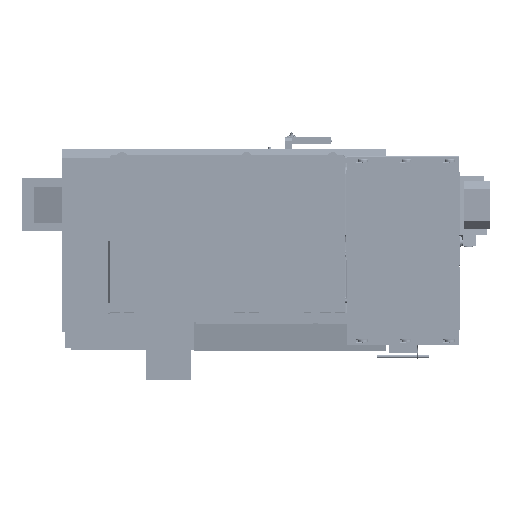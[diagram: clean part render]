
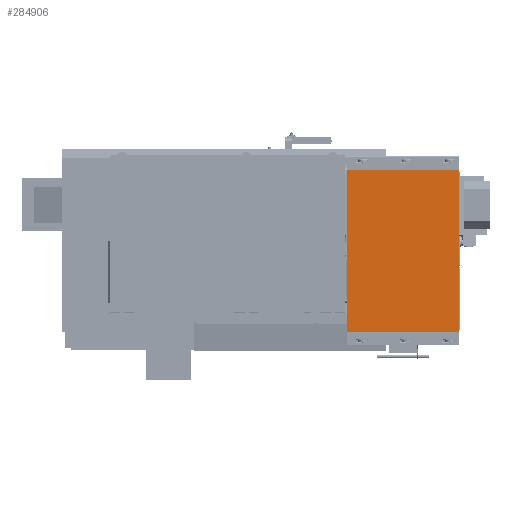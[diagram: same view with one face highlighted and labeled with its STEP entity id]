
A CAD part, front view. The second image highlights one B-rep face of the part: STEP entity #284906.
In plain terms, the highlighted planar face has unit normal (0, -1, 0) as drawn and (0.035, -0.999, 0) by its records, which use the part's own axes.
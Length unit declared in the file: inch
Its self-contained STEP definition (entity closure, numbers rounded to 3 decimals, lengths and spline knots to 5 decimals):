
#1536 = ORIENTED_EDGE ( 'NONE', *, *, #137292, .F. ) ;
#3104 = CARTESIAN_POINT ( 'NONE',  ( 118.72268, -41.16452, -54.03171 ) ) ;
#5153 = DIRECTION ( 'NONE',  ( 0.999, 0.035, 0. ) ) ;
#13883 = DIRECTION ( 'NONE',  ( 0., 0., -1. ) ) ;
#21405 = CARTESIAN_POINT ( 'NONE',  ( 118.82262, -41.16103, -54.03171 ) ) ;
#32302 = DIRECTION ( 'NONE',  ( 0.999, 0.035, 0. ) ) ;
#43758 = DIRECTION ( 'NONE',  ( 0., 0., 1. ) ) ;
#45467 = CARTESIAN_POINT ( 'NONE',  ( 72.14108, -42.79118, -54.03171 ) ) ;
#47731 = EDGE_CURVE ( 'NONE', #253581, #204048, #230423, .T. ) ;
#62962 = CARTESIAN_POINT ( 'NONE',  ( 72.14108, -42.79118, 13.06829 ) ) ;
#69053 = LINE ( 'NONE', #280220, #82822 ) ;
#82822 = VECTOR ( 'NONE', #5153, 39.37008 ) ;
#90486 = CARTESIAN_POINT ( 'NONE',  ( -6.27156, -45.52941, -54.03171 ) ) ;
#91321 = CARTESIAN_POINT ( 'NONE',  ( 72.24102, -42.78769, -54.03171 ) ) ;
#92806 = EDGE_CURVE ( 'NONE', #253581, #246650, #230002, .T. ) ;
#97983 = ORIENTED_EDGE ( 'NONE', *, *, #246416, .F. ) ;
#100361 = ORIENTED_EDGE ( 'NONE', *, *, #92806, .T. ) ;
#114034 = DIRECTION ( 'NONE',  ( -0.999, -0.035, 0. ) ) ;
#115228 = CARTESIAN_POINT ( 'NONE',  ( 118.72268, -41.16452, 13.06829 ) ) ;
#118260 = ORIENTED_EDGE ( 'NONE', *, *, #47731, .F. ) ;
#123839 = FACE_OUTER_BOUND ( 'NONE', #131230, .T. ) ;
#127859 = VERTEX_POINT ( 'NONE', #115228 ) ;
#128311 = CARTESIAN_POINT ( 'NONE',  ( 118.82262, -41.16103, -54.03171 ) ) ;
#129136 = CARTESIAN_POINT ( 'NONE',  ( -6.27156, -45.52941, -54.03171 ) ) ;
#131230 = EDGE_LOOP ( 'NONE', ( #118260, #100361, #249583, #247599, #97983, #1536, #342255, #185234 ) ) ;
#137292 = EDGE_CURVE ( 'NONE', #127859, #152506, #211201, .T. ) ;
#141933 = CARTESIAN_POINT ( 'NONE',  ( 118.72268, -41.16452, -54.03171 ) ) ;
#146507 = CARTESIAN_POINT ( 'NONE',  ( -6.27156, -45.52941, -54.03171 ) ) ;
#147876 = VECTOR ( 'NONE', #114034, 39.37008 ) ;
#152506 = VERTEX_POINT ( 'NONE', #302094 ) ;
#164914 = LINE ( 'NONE', #271351, #331957 ) ;
#176145 = PLANE ( 'NONE',  #186055 ) ;
#180644 = DIRECTION ( 'NONE',  ( 0., 0., -1. ) ) ;
#180741 = VECTOR ( 'NONE', #338453, 39.37008 ) ;
#181077 = VERTEX_POINT ( 'NONE', #3104 ) ;
#181434 = EDGE_CURVE ( 'NONE', #234299, #127859, #164914, .T. ) ;
#185234 = ORIENTED_EDGE ( 'NONE', *, *, #292419, .F. ) ;
#186055 = AXIS2_PLACEMENT_3D ( 'NONE', #146507, #226705, #13883 ) ;
#196905 = DIRECTION ( 'NONE',  ( 0.999, 0.035, 0. ) ) ;
#200442 = VECTOR ( 'NONE', #180644, 39.37008 ) ;
#201225 = VECTOR ( 'NONE', #43758, 39.37008 ) ;
#204048 = VERTEX_POINT ( 'NONE', #62962 ) ;
#209327 = LINE ( 'NONE', #129136, #180741 ) ;
#211201 = LINE ( 'NONE', #293155, #232945 ) ;
#213630 = LINE ( 'NONE', #128311, #200442 ) ;
#225793 = EDGE_CURVE ( 'NONE', #181077, #246650, #246625, .T. ) ;
#226705 = DIRECTION ( 'NONE',  ( 0.035, -0.999, 0. ) ) ;
#230002 = LINE ( 'NONE', #90486, #335651 ) ;
#230423 = LINE ( 'NONE', #45467, #201225 ) ;
#232945 = VECTOR ( 'NONE', #343750, 39.37008 ) ;
#234299 = VERTEX_POINT ( 'NONE', #265418 ) ;
#246416 = EDGE_CURVE ( 'NONE', #152506, #255976, #213630, .T. ) ;
#246625 = LINE ( 'NONE', #141933, #147876 ) ;
#246650 = VERTEX_POINT ( 'NONE', #91321 ) ;
#247599 = ORIENTED_EDGE ( 'NONE', *, *, #334215, .T. ) ;
#249583 = ORIENTED_EDGE ( 'NONE', *, *, #225793, .F. ) ;
#253581 = VERTEX_POINT ( 'NONE', #305340 ) ;
#255976 = VERTEX_POINT ( 'NONE', #21405 ) ;
#265418 = CARTESIAN_POINT ( 'NONE',  ( 72.24102, -42.78769, 13.06829 ) ) ;
#271351 = CARTESIAN_POINT ( 'NONE',  ( -6.27156, -45.52941, 13.06829 ) ) ;
#280220 = CARTESIAN_POINT ( 'NONE',  ( -6.27156, -45.52941, 13.06829 ) ) ;
#284906 = ADVANCED_FACE ( 'NONE', ( #123839 ), #176145, .T. ) ;
#292419 = EDGE_CURVE ( 'NONE', #204048, #234299, #69053, .T. ) ;
#293155 = CARTESIAN_POINT ( 'NONE',  ( -6.27156, -45.52941, 13.06829 ) ) ;
#302094 = CARTESIAN_POINT ( 'NONE',  ( 118.82262, -41.16103, 13.06829 ) ) ;
#305340 = CARTESIAN_POINT ( 'NONE',  ( 72.14108, -42.79118, -54.03171 ) ) ;
#331957 = VECTOR ( 'NONE', #32302, 39.37008 ) ;
#334215 = EDGE_CURVE ( 'NONE', #181077, #255976, #209327, .T. ) ;
#335651 = VECTOR ( 'NONE', #196905, 39.37008 ) ;
#338453 = DIRECTION ( 'NONE',  ( 0.999, 0.035, 0. ) ) ;
#342255 = ORIENTED_EDGE ( 'NONE', *, *, #181434, .F. ) ;
#343750 = DIRECTION ( 'NONE',  ( 0.999, 0.035, 0. ) ) ;
